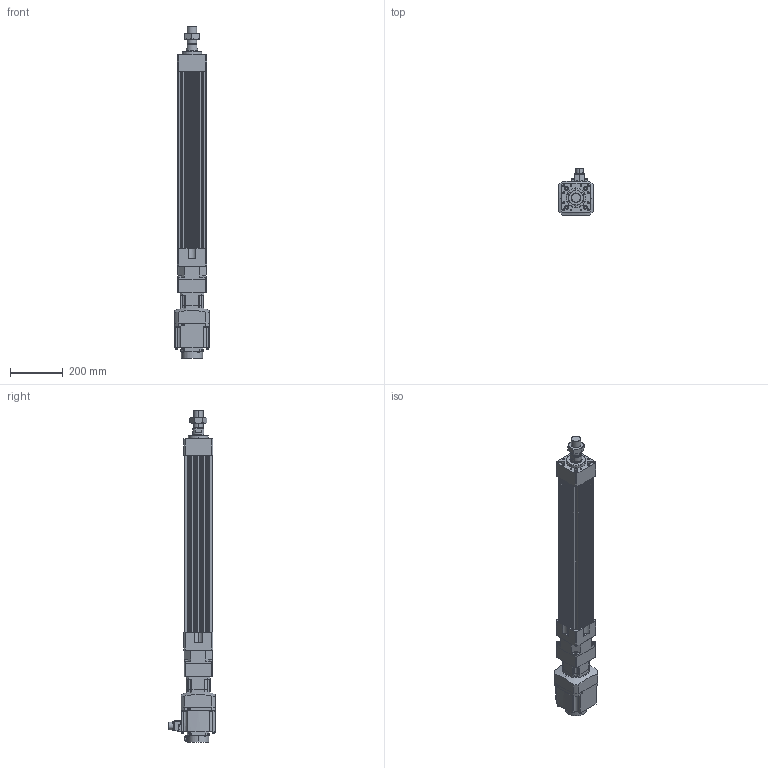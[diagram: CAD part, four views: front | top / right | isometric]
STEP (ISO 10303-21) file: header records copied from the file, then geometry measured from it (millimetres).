
FILE_DESCRIPTION (( 'STEP AP203' ), '1' );
FILE_NAME ('HES110NS(HS)-S500-W010G00-M.STEP', '2023-01-27T04:38:35', ( 'tms' ), ( '' ), 'SwSTEP 2.0', 'SolidWorks 2013', '' );
FILE_SCHEMA (( 'CONFIG_CONTROL_DESIGN' ));
Length unit declared in the file: millimetre
Products named in the file (8): HES110 ROD M ST500; AB090-003[HG-SR102B]; AB0901; HES110NS(HS)-S500-W010G00-M; HES110-S500-G090; M36X1.5P; HG-SR102; P0401301004
Assembly tree (7 placements, depth 3):
  HES110NS(HS)-S500-W010G00-M
    HES110-S500-G090
    HES110 ROD M ST500
    M36X1.5P
    AB090-003[HG-SR102B]
      AB0901
      P0401301004
    HG-SR102
Bounding box: 130 x 177.49 x 1258.5 mm (x, y, z)
Volume: 8032423.9 mm3; surface area: 1106000.2 mm2
Topology: 4 solids, 15 shells, 1197 faces, 3018 edges, 1947 vertices
Faces by surface type: plane 550, cylinder 535, cone 100, bspline 8, torus 4
Entity records: 37761 total; most frequent: CARTESIAN_POINT 7330, DIRECTION 6511, ORIENTED_EDGE 5944, EDGE_CURVE 2982, AXIS2_PLACEMENT_3D 2399, VERTEX_POINT 1947, VECTOR 1713, LINE 1713
